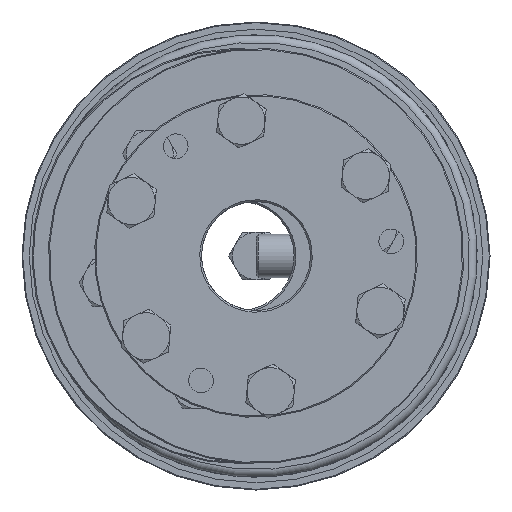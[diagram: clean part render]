
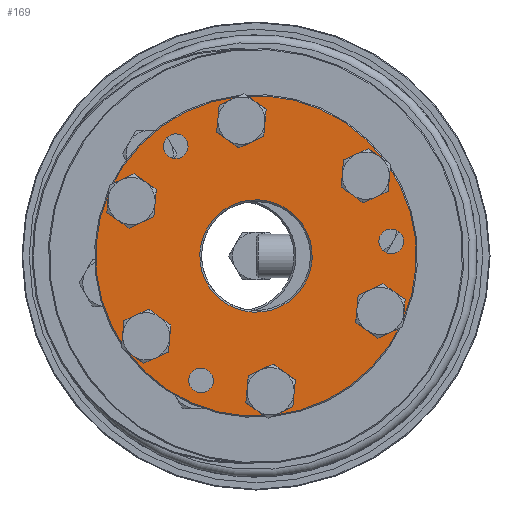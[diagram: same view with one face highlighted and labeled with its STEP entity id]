
A CAD part, left-side view. The second image highlights one B-rep face of the part: STEP entity #169.
In plain terms, the highlighted planar face has unit normal (-1, 0, 0).
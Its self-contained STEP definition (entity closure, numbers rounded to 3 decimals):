
#169 = ADVANCED_FACE( 'NONE', ( #303, #304, #305, #306, #307, #308, #309, #310, #311, #312, #313 ), #314, .F. );
#303 = FACE_OUTER_BOUND( '', #479, .T. );
#304 = FACE_BOUND( '', #480, .T. );
#305 = FACE_BOUND( '', #481, .T. );
#306 = FACE_BOUND( '', #482, .T. );
#307 = FACE_BOUND( '', #483, .T. );
#308 = FACE_BOUND( '', #484, .T. );
#309 = FACE_BOUND( '', #485, .T. );
#310 = FACE_BOUND( '', #486, .T. );
#311 = FACE_BOUND( '', #487, .T. );
#312 = FACE_BOUND( '', #488, .T. );
#313 = FACE_BOUND( '', #489, .T. );
#314 = PLANE( '', #490 );
#479 = EDGE_LOOP( '', ( #830 ) );
#480 = EDGE_LOOP( '', ( #831 ) );
#481 = EDGE_LOOP( '', ( #832 ) );
#482 = EDGE_LOOP( '', ( #833 ) );
#483 = EDGE_LOOP( '', ( #834 ) );
#484 = EDGE_LOOP( '', ( #835 ) );
#485 = EDGE_LOOP( '', ( #836 ) );
#486 = EDGE_LOOP( '', ( #837 ) );
#487 = EDGE_LOOP( '', ( #838 ) );
#488 = EDGE_LOOP( '', ( #839 ) );
#489 = EDGE_LOOP( '', ( #840 ) );
#490 = AXIS2_PLACEMENT_3D( '', #841, #842, #843 );
#830 = ORIENTED_EDGE( '', *, *, #1472, .T. );
#831 = ORIENTED_EDGE( '', *, *, #1469, .T. );
#832 = ORIENTED_EDGE( '', *, *, #1473, .F. );
#833 = ORIENTED_EDGE( '', *, *, #1474, .F. );
#834 = ORIENTED_EDGE( '', *, *, #1475, .F. );
#835 = ORIENTED_EDGE( '', *, *, #1465, .F. );
#836 = ORIENTED_EDGE( '', *, *, #1476, .F. );
#837 = ORIENTED_EDGE( '', *, *, #1477, .F. );
#838 = ORIENTED_EDGE( '', *, *, #1444, .F. );
#839 = ORIENTED_EDGE( '', *, *, #1447, .F. );
#840 = ORIENTED_EDGE( '', *, *, #1450, .F. );
#841 = CARTESIAN_POINT( '', ( 0., 15., 0. ) );
#842 = DIRECTION( '', ( 1., 0., 0. ) );
#843 = DIRECTION( '', ( 0., 1., 0. ) );
#1444 = EDGE_CURVE( 'NONE', #2022, #2022, #2023, .T. );
#1447 = EDGE_CURVE( 'NONE', #2027, #2027, #2028, .T. );
#1450 = EDGE_CURVE( 'NONE', #2032, #2032, #2033, .T. );
#1465 = EDGE_CURVE( 'NONE', #2059, #2059, #2060, .T. );
#1469 = EDGE_CURVE( 'NONE', #2065, #2065, #2066, .T. );
#1472 = EDGE_CURVE( 'NONE', #2070, #2070, #2071, .T. );
#1473 = EDGE_CURVE( 'NONE', #2072, #2072, #2073, .T. );
#1474 = EDGE_CURVE( 'NONE', #2074, #2074, #2075, .T. );
#1475 = EDGE_CURVE( 'NONE', #2076, #2076, #2077, .T. );
#1476 = EDGE_CURVE( 'NONE', #2078, #2078, #2079, .T. );
#1477 = EDGE_CURVE( 'NONE', #2080, #2080, #2081, .T. );
#2022 = VERTEX_POINT( '', #3134 );
#2023 = CIRCLE( '', #3135, 4.5 );
#2027 = VERTEX_POINT( '', #3139 );
#2028 = CIRCLE( '', #3140, 3.4 );
#2032 = VERTEX_POINT( '', #3144 );
#2033 = CIRCLE( '', #3145, 3.4 );
#2059 = VERTEX_POINT( '', #3171 );
#2060 = CIRCLE( '', #3172, 4.5 );
#2065 = VERTEX_POINT( '', #3177 );
#2066 = CIRCLE( '', #3178, 15.5 );
#2070 = VERTEX_POINT( '', #3182 );
#2071 = CIRCLE( '', #3183, 44.2 );
#2072 = VERTEX_POINT( '', #3184 );
#2073 = CIRCLE( '', #3185, 3.4 );
#2074 = VERTEX_POINT( '', #3186 );
#2075 = CIRCLE( '', #3187, 4.5 );
#2076 = VERTEX_POINT( '', #3188 );
#2077 = CIRCLE( '', #3189, 4.5 );
#2078 = VERTEX_POINT( '', #3190 );
#2079 = CIRCLE( '', #3191, 4.5 );
#2080 = VERTEX_POINT( '', #3192 );
#2081 = CIRCLE( '', #3193, 4.5 );
#3134 = CARTESIAN_POINT( '', ( 0., -18.75, 36.976 ) );
#3135 = AXIS2_PLACEMENT_3D( '', #3458, #3459, #3460 );
#3139 = CARTESIAN_POINT( '', ( 0., 32.476, 22.15 ) );
#3140 = AXIS2_PLACEMENT_3D( '', #3464, #3465, #3466 );
#3144 = CARTESIAN_POINT( '', ( 0., -32.476, 22.15 ) );
#3145 = AXIS2_PLACEMENT_3D( '', #3470, #3471, #3472 );
#3171 = CARTESIAN_POINT( '', ( 0., 18.75, -27.976 ) );
#3172 = AXIS2_PLACEMENT_3D( '', #3506, #3507, #3508 );
#3177 = CARTESIAN_POINT( '', ( 0., 0., -15.5 ) );
#3178 = AXIS2_PLACEMENT_3D( '', #3512, #3513, #3514 );
#3182 = CARTESIAN_POINT( '', ( 0., 0., -44.2 ) );
#3183 = AXIS2_PLACEMENT_3D( '', #3518, #3519, #3520 );
#3184 = CARTESIAN_POINT( '', ( 0., 0., -34.1 ) );
#3185 = AXIS2_PLACEMENT_3D( '', #3521, #3522, #3523 );
#3186 = CARTESIAN_POINT( '', ( 0., 18.75, 36.976 ) );
#3187 = AXIS2_PLACEMENT_3D( '', #3524, #3525, #3526 );
#3188 = CARTESIAN_POINT( '', ( 0., 37.5, 4.5 ) );
#3189 = AXIS2_PLACEMENT_3D( '', #3527, #3528, #3529 );
#3190 = CARTESIAN_POINT( '', ( 0., -18.75, -27.976 ) );
#3191 = AXIS2_PLACEMENT_3D( '', #3530, #3531, #3532 );
#3192 = CARTESIAN_POINT( '', ( 0., -37.5, 4.5 ) );
#3193 = AXIS2_PLACEMENT_3D( '', #3533, #3534, #3535 );
#3458 = CARTESIAN_POINT( '', ( 0., -18.75, 32.476 ) );
#3459 = DIRECTION( '', ( -1., 0., 0. ) );
#3460 = DIRECTION( '', ( 0., 0., 1. ) );
#3464 = CARTESIAN_POINT( '', ( 0., 32.476, 18.75 ) );
#3465 = DIRECTION( '', ( -1., 0., 0. ) );
#3466 = DIRECTION( '', ( 0., 0., 1. ) );
#3470 = CARTESIAN_POINT( '', ( 0., -32.476, 18.75 ) );
#3471 = DIRECTION( '', ( -1., 0., 0. ) );
#3472 = DIRECTION( '', ( 0., 0., 1. ) );
#3506 = CARTESIAN_POINT( '', ( 0., 18.75, -32.476 ) );
#3507 = DIRECTION( '', ( -1., 0., 0. ) );
#3508 = DIRECTION( '', ( 0., 0., 1. ) );
#3512 = CARTESIAN_POINT( '', ( 0., 0., 0. ) );
#3513 = DIRECTION( '', ( 1., 0., 0. ) );
#3514 = DIRECTION( '', ( 0., 0., -1. ) );
#3518 = CARTESIAN_POINT( '', ( 0., 0., 0. ) );
#3519 = DIRECTION( '', ( -1., 0., 0. ) );
#3520 = DIRECTION( '', ( 0., 0., -1. ) );
#3521 = CARTESIAN_POINT( '', ( 0., 0., -37.5 ) );
#3522 = DIRECTION( '', ( -1., 0., 0. ) );
#3523 = DIRECTION( '', ( 0., 0., 1. ) );
#3524 = CARTESIAN_POINT( '', ( 0., 18.75, 32.476 ) );
#3525 = DIRECTION( '', ( -1., 0., 0. ) );
#3526 = DIRECTION( '', ( 0., 0., 1. ) );
#3527 = CARTESIAN_POINT( '', ( 0., 37.5, 0. ) );
#3528 = DIRECTION( '', ( -1., 0., 0. ) );
#3529 = DIRECTION( '', ( 0., 0., 1. ) );
#3530 = CARTESIAN_POINT( '', ( 0., -18.75, -32.476 ) );
#3531 = DIRECTION( '', ( -1., 0., 0. ) );
#3532 = DIRECTION( '', ( 0., 0., 1. ) );
#3533 = CARTESIAN_POINT( '', ( 0., -37.5, 0. ) );
#3534 = DIRECTION( '', ( -1., 0., 0. ) );
#3535 = DIRECTION( '', ( 0., 0., 1. ) );
